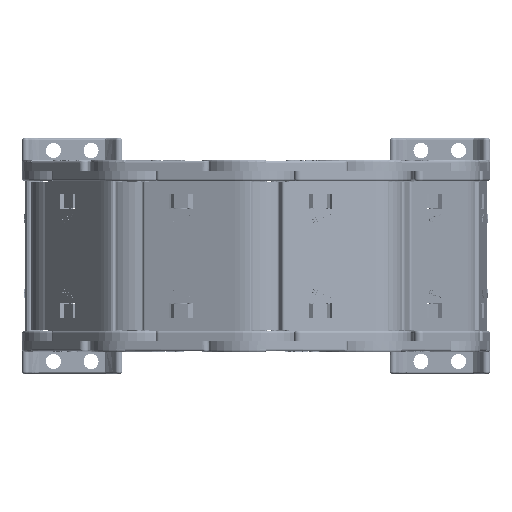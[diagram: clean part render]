
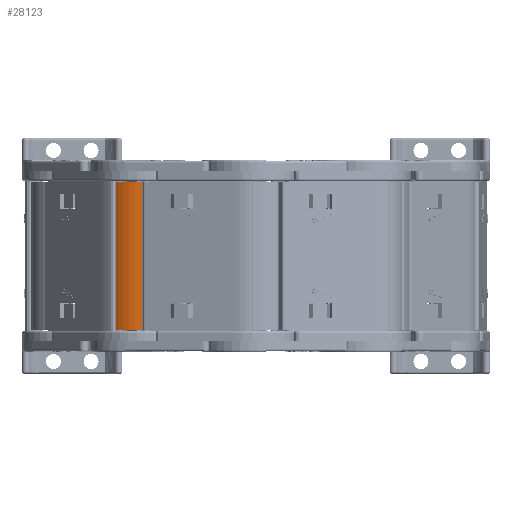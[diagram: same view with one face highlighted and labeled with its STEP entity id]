
A CAD part, left-side view. The second image highlights one B-rep face of the part: STEP entity #28123.
In plain terms, the highlighted cylindrical face has radius 17.3 mm (diameter 34.6 mm), a partial arc.
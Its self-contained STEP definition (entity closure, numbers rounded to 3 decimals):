
#1290 = VERTEX_POINT ( 'NONE', #41965 ) ;
#2718 = CARTESIAN_POINT ( 'NONE',  ( 23.607, -0.029, 28.5 ) ) ;
#3630 = VERTEX_POINT ( 'NONE', #39211 ) ;
#6999 = CARTESIAN_POINT ( 'NONE',  ( 32.559, 14.775, 50.05 ) ) ;
#8012 = CARTESIAN_POINT ( 'NONE',  ( 23.607, -0.029, 50.05 ) ) ;
#9470 = EDGE_CURVE ( 'NONE', #1290, #3630, #36604, .T. ) ;
#9536 = EDGE_CURVE ( 'NONE', #47483, #18245, #34200, .T. ) ;
#9839 = AXIS2_PLACEMENT_3D ( 'NONE', #2718, #10340, #21727 ) ;
#10340 = DIRECTION ( 'NONE',  ( 0., 0., -1. ) ) ;
#11846 = DIRECTION ( 'NONE',  ( -1., 0., 0. ) ) ;
#12512 = VECTOR ( 'NONE', #37004, 1000. ) ;
#15284 = AXIS2_PLACEMENT_3D ( 'NONE', #18910, #45891, #22740 ) ;
#16008 = VECTOR ( 'NONE', #19935, 1000. ) ;
#18245 = VERTEX_POINT ( 'NONE', #6999 ) ;
#18910 = CARTESIAN_POINT ( 'NONE',  ( 23.607, -0.029, -9.05 ) ) ;
#18970 = ORIENTED_EDGE ( 'NONE', *, *, #36821, .T. ) ;
#19408 = ORIENTED_EDGE ( 'NONE', *, *, #9470, .T. ) ;
#19935 = DIRECTION ( 'NONE',  ( 0., 0., -1. ) ) ;
#21727 = DIRECTION ( 'NONE',  ( -1., 0., 0. ) ) ;
#22740 = DIRECTION ( 'NONE',  ( 1., 0., 0. ) ) ;
#26128 = LINE ( 'NONE', #39436, #16008 ) ;
#28123 = ADVANCED_FACE ( 'NONE', ( #47124 ), #34392, .T. ) ;
#29224 = CARTESIAN_POINT ( 'NONE',  ( 17.932, 16.314, 28.5 ) ) ;
#31217 = EDGE_CURVE ( 'NONE', #3630, #47483, #32919, .T. ) ;
#32919 = LINE ( 'NONE', #29224, #12512 ) ;
#34200 = CIRCLE ( 'NONE', #35190, 17.3 ) ;
#34392 = CYLINDRICAL_SURFACE ( 'NONE', #9839, 17.3 ) ;
#34838 = DIRECTION ( 'NONE',  ( 0., 0., -1. ) ) ;
#35190 = AXIS2_PLACEMENT_3D ( 'NONE', #8012, #34838, #11846 ) ;
#36604 = CIRCLE ( 'NONE', #15284, 17.3 ) ;
#36821 = EDGE_CURVE ( 'NONE', #18245, #1290, #26128, .T. ) ;
#37004 = DIRECTION ( 'NONE',  ( 0., 0., 1. ) ) ;
#37423 = CARTESIAN_POINT ( 'NONE',  ( 17.932, 16.314, 50.05 ) ) ;
#39211 = CARTESIAN_POINT ( 'NONE',  ( 17.932, 16.314, -9.05 ) ) ;
#39436 = CARTESIAN_POINT ( 'NONE',  ( 32.559, 14.775, 28.5 ) ) ;
#41623 = ORIENTED_EDGE ( 'NONE', *, *, #31217, .T. ) ;
#41965 = CARTESIAN_POINT ( 'NONE',  ( 32.559, 14.775, -9.05 ) ) ;
#44705 = ORIENTED_EDGE ( 'NONE', *, *, #9536, .T. ) ;
#45436 = EDGE_LOOP ( 'NONE', ( #41623, #44705, #18970, #19408 ) ) ;
#45891 = DIRECTION ( 'NONE',  ( 0., 0., 1. ) ) ;
#47124 = FACE_OUTER_BOUND ( 'NONE', #45436, .T. ) ;
#47483 = VERTEX_POINT ( 'NONE', #37423 ) ;
